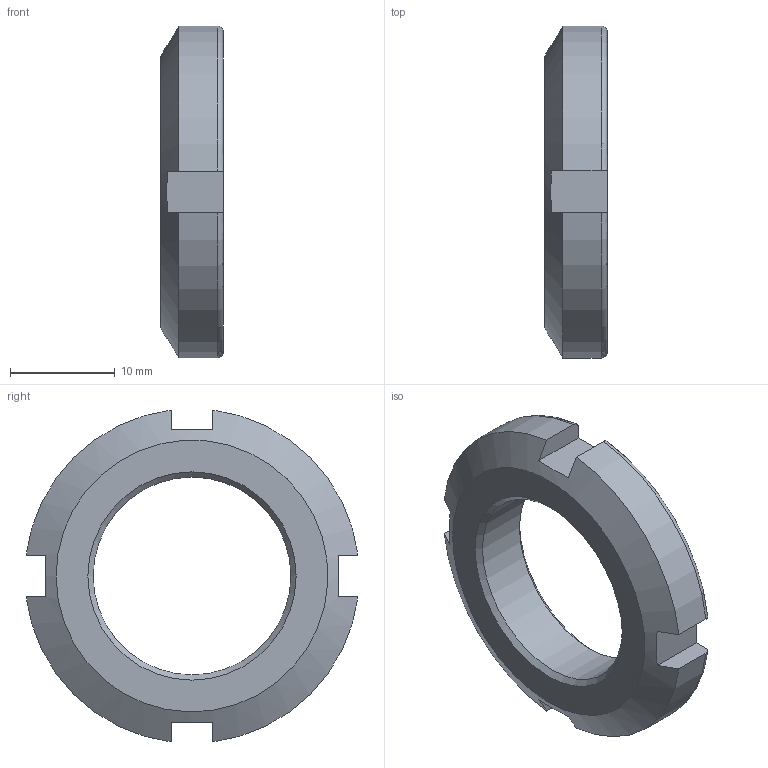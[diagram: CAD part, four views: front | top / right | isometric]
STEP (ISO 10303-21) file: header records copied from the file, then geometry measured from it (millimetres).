
FILE_DESCRIPTION(/* description */ ('Locknuts and locking devices-Dimensions - Locknuts(4 slots)'),/* implementation_level */ '2;1');
FILE_NAME(/* name */ 'D:\lock nut\LOCK NUT ISO 2982-2 - M20 x 1 x 26.stp',/* time_stamp */ '2022-04-01T13:48:06+07:00',/* author */ ('USER'),/* organization */ (''),/* preprocessor_version */ 'ST-DEVELOPER v16.1',/* originating_system */ 'Autodesk Inventor 2016',/* authorisation */ '');
FILE_SCHEMA (('AUTOMOTIVE_DESIGN { 1 0 10303 214 3 1 1 }'));
Length unit declared in the file: millimetre
Products named in the file (1): LOCK NUT ISO 2982-2 - M20 x 1 x 26
Bounding box: 6 x 31.75 x 31.75 mm (x, y, z)
Volume: 2721.3 mm3; surface area: 1840 mm2
Topology: 1 solids, 1 shells, 26 faces, 72 edges, 48 vertices
Faces by surface type: plane 14, cylinder 5, torus 4, cone 3
Full cylindrical faces by diameter (mm): 18.917 x1
Entity records: 858 total; most frequent: CARTESIAN_POINT 233, ORIENTED_EDGE 130, DIRECTION 116, EDGE_CURVE 65, VERTEX_POINT 45, AXIS2_PLACEMENT_3D 44, EDGE_LOOP 32, LINE 28
